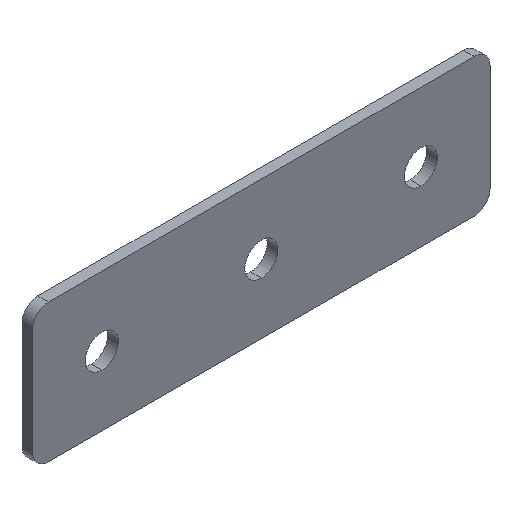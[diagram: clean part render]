
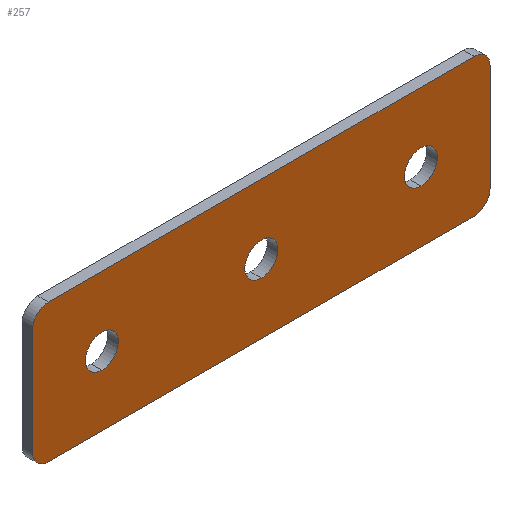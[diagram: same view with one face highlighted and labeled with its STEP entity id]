
A CAD part, isometric view. The second image highlights one B-rep face of the part: STEP entity #257.
In plain terms, the highlighted planar face has unit normal (0, -1, 0).
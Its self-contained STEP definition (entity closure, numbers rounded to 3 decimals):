
#1 = CIRCLE ( 'NONE', #207, 3.1 ) ;
#4 = AXIS2_PLACEMENT_3D ( 'NONE', #458, #503, #593 ) ;
#5 = DIRECTION ( 'NONE',  ( 0., 0., 1. ) ) ;
#6 = DIRECTION ( 'NONE',  ( 0., 0., 1. ) ) ;
#8 = DIRECTION ( 'NONE',  ( 0., 0., 1. ) ) ;
#16 = DIRECTION ( 'NONE',  ( 0., -1., 0. ) ) ;
#20 = ORIENTED_EDGE ( 'NONE', *, *, #262, .T. ) ;
#21 = DIRECTION ( 'NONE',  ( 0., -1., 0. ) ) ;
#28 = VECTOR ( 'NONE', #347, 1000. ) ;
#45 = DIRECTION ( 'NONE',  ( 0., -1., 0. ) ) ;
#47 = FACE_BOUND ( 'NONE', #488, .T. ) ;
#52 = CARTESIAN_POINT ( 'NONE',  ( 2.865, 0., -3.1 ) ) ;
#61 = ORIENTED_EDGE ( 'NONE', *, *, #581, .F. ) ;
#64 = LINE ( 'NONE', #567, #28 ) ;
#68 = ORIENTED_EDGE ( 'NONE', *, *, #244, .T. ) ;
#79 = AXIS2_PLACEMENT_3D ( 'NONE', #124, #173, #548 ) ;
#91 = CARTESIAN_POINT ( 'NONE',  ( 2.865, 0., 0. ) ) ;
#95 = DIRECTION ( 'NONE',  ( 0., -1., 0. ) ) ;
#104 = CARTESIAN_POINT ( 'NONE',  ( 75.865, 0., -10.019 ) ) ;
#108 = ORIENTED_EDGE ( 'NONE', *, *, #187, .T. ) ;
#120 = EDGE_CURVE ( 'NONE', #161, #308, #449, .T. ) ;
#122 = CARTESIAN_POINT ( 'NONE',  ( 32.865, 0., -3.1 ) ) ;
#123 = CIRCLE ( 'NONE', #348, 2.981 ) ;
#124 = CARTESIAN_POINT ( 'NONE',  ( -7.154, 0., 10.019 ) ) ;
#125 = EDGE_LOOP ( 'NONE', ( #108, #224, #346, #440, #233, #20, #68, #237 ) ) ;
#127 = EDGE_CURVE ( 'NONE', #151, #578, #573, .T. ) ;
#140 = VERTEX_POINT ( 'NONE', #122 ) ;
#149 = AXIS2_PLACEMENT_3D ( 'NONE', #91, #189, #357 ) ;
#150 = CARTESIAN_POINT ( 'NONE',  ( 62.865, 0., -3.1 ) ) ;
#151 = VERTEX_POINT ( 'NONE', #260 ) ;
#155 = AXIS2_PLACEMENT_3D ( 'NONE', #277, #95, #415 ) ;
#156 = VECTOR ( 'NONE', #329, 1000. ) ;
#161 = VERTEX_POINT ( 'NONE', #495 ) ;
#162 = FACE_BOUND ( 'NONE', #252, .T. ) ;
#167 = DIRECTION ( 'NONE',  ( 0., 0., -1. ) ) ;
#171 = DIRECTION ( 'NONE',  ( 0., 0., 1. ) ) ;
#172 = AXIS2_PLACEMENT_3D ( 'NONE', #199, #16, #171 ) ;
#173 = DIRECTION ( 'NONE',  ( 0., -1., 0. ) ) ;
#177 = EDGE_CURVE ( 'NONE', #484, #361, #381, .T. ) ;
#181 = FACE_BOUND ( 'NONE', #397, .T. ) ;
#187 = EDGE_CURVE ( 'NONE', #558, #406, #438, .T. ) ;
#189 = DIRECTION ( 'NONE',  ( 0., -1., 0. ) ) ;
#199 = CARTESIAN_POINT ( 'NONE',  ( 32.865, 0., 0. ) ) ;
#203 = VERTEX_POINT ( 'NONE', #454 ) ;
#207 = AXIS2_PLACEMENT_3D ( 'NONE', #429, #280, #8 ) ;
#212 = EDGE_CURVE ( 'NONE', #203, #447, #285, .T. ) ;
#214 = CIRCLE ( 'NONE', #338, 3.1 ) ;
#216 = ORIENTED_EDGE ( 'NONE', *, *, #229, .F. ) ;
#217 = AXIS2_PLACEMENT_3D ( 'NONE', #561, #45, #6 ) ;
#218 = DIRECTION ( 'NONE',  ( 0., -1., 0. ) ) ;
#222 = CARTESIAN_POINT ( 'NONE',  ( 72.885, 0., -13. ) ) ;
#224 = ORIENTED_EDGE ( 'NONE', *, *, #333, .T. ) ;
#228 = PLANE ( 'NONE',  #155 ) ;
#229 = EDGE_CURVE ( 'NONE', #140, #276, #411, .T. ) ;
#233 = ORIENTED_EDGE ( 'NONE', *, *, #127, .T. ) ;
#237 = ORIENTED_EDGE ( 'NONE', *, *, #343, .T. ) ;
#244 = EDGE_CURVE ( 'NONE', #246, #592, #123, .T. ) ;
#246 = VERTEX_POINT ( 'NONE', #497 ) ;
#252 = EDGE_LOOP ( 'NONE', ( #501, #452 ) ) ;
#257 = ADVANCED_FACE ( 'NONE', ( #162, #47, #181, #288 ), #228, .T. ) ;
#260 = CARTESIAN_POINT ( 'NONE',  ( -7.154, 0., 13. ) ) ;
#262 = EDGE_CURVE ( 'NONE', #578, #246, #64, .T. ) ;
#275 = CARTESIAN_POINT ( 'NONE',  ( -7.154, 0., -13. ) ) ;
#276 = VERTEX_POINT ( 'NONE', #579 ) ;
#277 = CARTESIAN_POINT ( 'NONE',  ( 72.885, 0., -10.019 ) ) ;
#280 = DIRECTION ( 'NONE',  ( 0., -1., 0. ) ) ;
#282 = CARTESIAN_POINT ( 'NONE',  ( 72.885, 0., 13. ) ) ;
#283 = EDGE_CURVE ( 'NONE', #308, #151, #402, .T. ) ;
#285 = CIRCLE ( 'NONE', #149, 3.1 ) ;
#286 = CARTESIAN_POINT ( 'NONE',  ( -7.154, 0., -13. ) ) ;
#288 = FACE_OUTER_BOUND ( 'NONE', #125, .T. ) ;
#298 = VECTOR ( 'NONE', #474, 1000. ) ;
#305 = ORIENTED_EDGE ( 'NONE', *, *, #177, .F. ) ;
#307 = AXIS2_PLACEMENT_3D ( 'NONE', #530, #21, #167 ) ;
#308 = VERTEX_POINT ( 'NONE', #282 ) ;
#314 = CARTESIAN_POINT ( 'NONE',  ( -10.135, 0., 10.019 ) ) ;
#315 = DIRECTION ( 'NONE',  ( 0., -1., 0. ) ) ;
#325 = CARTESIAN_POINT ( 'NONE',  ( 75.865, 0., -10.019 ) ) ;
#329 = DIRECTION ( 'NONE',  ( 1., 0., 0. ) ) ;
#333 = EDGE_CURVE ( 'NONE', #406, #161, #399, .T. ) ;
#338 = AXIS2_PLACEMENT_3D ( 'NONE', #468, #315, #5 ) ;
#343 = EDGE_CURVE ( 'NONE', #592, #558, #528, .T. ) ;
#346 = ORIENTED_EDGE ( 'NONE', *, *, #120, .T. ) ;
#347 = DIRECTION ( 'NONE',  ( 0., 0., -1. ) ) ;
#348 = AXIS2_PLACEMENT_3D ( 'NONE', #416, #461, #463 ) ;
#352 = CARTESIAN_POINT ( 'NONE',  ( 62.865, 0., 0. ) ) ;
#357 = DIRECTION ( 'NONE',  ( 0., 0., 1. ) ) ;
#361 = VERTEX_POINT ( 'NONE', #525 ) ;
#366 = ORIENTED_EDGE ( 'NONE', *, *, #533, .F. ) ;
#381 = CIRCLE ( 'NONE', #388, 3.1 ) ;
#388 = AXIS2_PLACEMENT_3D ( 'NONE', #352, #218, #408 ) ;
#395 = CARTESIAN_POINT ( 'NONE',  ( 72.885, 0., 13. ) ) ;
#397 = EDGE_LOOP ( 'NONE', ( #305, #366 ) ) ;
#399 = LINE ( 'NONE', #104, #298 ) ;
#402 = LINE ( 'NONE', #395, #432 ) ;
#406 = VERTEX_POINT ( 'NONE', #325 ) ;
#408 = DIRECTION ( 'NONE',  ( 0., 0., 1. ) ) ;
#411 = CIRCLE ( 'NONE', #217, 3.1 ) ;
#415 = DIRECTION ( 'NONE',  ( 0., 0., -1. ) ) ;
#416 = CARTESIAN_POINT ( 'NONE',  ( -7.154, 0., -10.019 ) ) ;
#429 = CARTESIAN_POINT ( 'NONE',  ( 62.865, 0., 0. ) ) ;
#432 = VECTOR ( 'NONE', #526, 1000. ) ;
#438 = CIRCLE ( 'NONE', #4, 2.981 ) ;
#440 = ORIENTED_EDGE ( 'NONE', *, *, #283, .T. ) ;
#447 = VERTEX_POINT ( 'NONE', #52 ) ;
#449 = CIRCLE ( 'NONE', #307, 2.981 ) ;
#452 = ORIENTED_EDGE ( 'NONE', *, *, #212, .F. ) ;
#454 = CARTESIAN_POINT ( 'NONE',  ( 2.865, 0., 3.1 ) ) ;
#458 = CARTESIAN_POINT ( 'NONE',  ( 72.885, 0., -10.019 ) ) ;
#461 = DIRECTION ( 'NONE',  ( 0., -1., 0. ) ) ;
#463 = DIRECTION ( 'NONE',  ( 0., 0., -1. ) ) ;
#468 = CARTESIAN_POINT ( 'NONE',  ( 2.865, 0., 0. ) ) ;
#474 = DIRECTION ( 'NONE',  ( 0., 0., 1. ) ) ;
#484 = VERTEX_POINT ( 'NONE', #150 ) ;
#488 = EDGE_LOOP ( 'NONE', ( #216, #61 ) ) ;
#495 = CARTESIAN_POINT ( 'NONE',  ( 75.865, 0., 10.019 ) ) ;
#497 = CARTESIAN_POINT ( 'NONE',  ( -10.135, 0., -10.019 ) ) ;
#501 = ORIENTED_EDGE ( 'NONE', *, *, #521, .F. ) ;
#503 = DIRECTION ( 'NONE',  ( 0., -1., 0. ) ) ;
#521 = EDGE_CURVE ( 'NONE', #447, #203, #214, .T. ) ;
#525 = CARTESIAN_POINT ( 'NONE',  ( 62.865, 0., 3.1 ) ) ;
#526 = DIRECTION ( 'NONE',  ( -1., 0., 0. ) ) ;
#528 = LINE ( 'NONE', #286, #156 ) ;
#530 = CARTESIAN_POINT ( 'NONE',  ( 72.885, 0., 10.019 ) ) ;
#533 = EDGE_CURVE ( 'NONE', #361, #484, #1, .T. ) ;
#548 = DIRECTION ( 'NONE',  ( 0., 0., -1. ) ) ;
#558 = VERTEX_POINT ( 'NONE', #222 ) ;
#560 = CIRCLE ( 'NONE', #172, 3.1 ) ;
#561 = CARTESIAN_POINT ( 'NONE',  ( 32.865, 0., 0. ) ) ;
#567 = CARTESIAN_POINT ( 'NONE',  ( -10.135, 0., 10.019 ) ) ;
#573 = CIRCLE ( 'NONE', #79, 2.981 ) ;
#578 = VERTEX_POINT ( 'NONE', #314 ) ;
#579 = CARTESIAN_POINT ( 'NONE',  ( 32.865, 0., 3.1 ) ) ;
#581 = EDGE_CURVE ( 'NONE', #276, #140, #560, .T. ) ;
#592 = VERTEX_POINT ( 'NONE', #275 ) ;
#593 = DIRECTION ( 'NONE',  ( 0., 0., -1. ) ) ;
